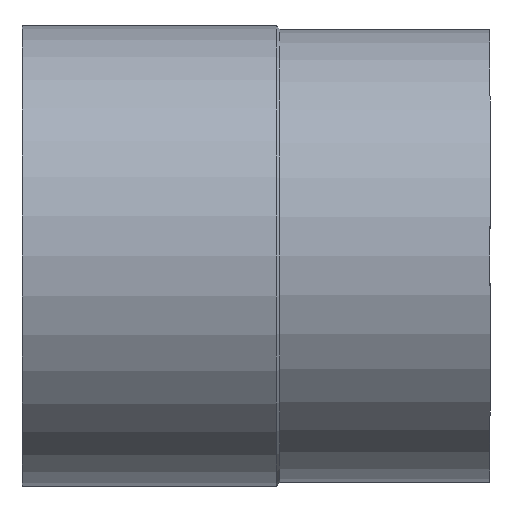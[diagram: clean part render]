
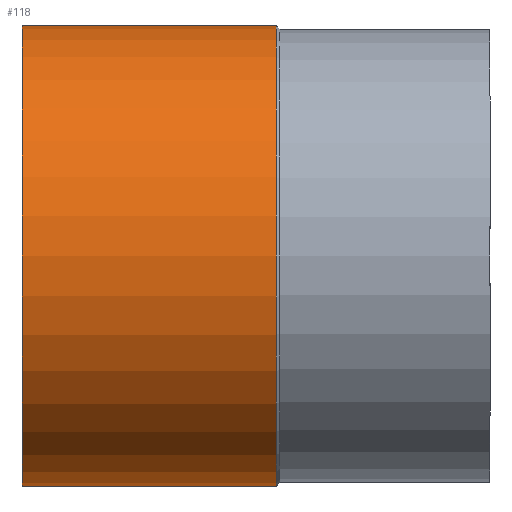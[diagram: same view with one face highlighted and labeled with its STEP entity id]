
A CAD part, front view. The second image highlights one B-rep face of the part: STEP entity #118.
In plain terms, the highlighted cylindrical face has radius 62.5 mm (diameter 125 mm), a full revolution.
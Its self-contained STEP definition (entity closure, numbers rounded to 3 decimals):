
#18=CYLINDRICAL_SURFACE('',#134,62.5);
#25=FACE_BOUND('',#49,.T.);
#35=FACE_OUTER_BOUND('',#48,.T.);
#48=EDGE_LOOP('',(#98));
#49=EDGE_LOOP('',(#99));
#65=CIRCLE('',#133,62.5);
#66=CIRCLE('',#135,62.5);
#75=VERTEX_POINT('',#199);
#76=VERTEX_POINT('',#202);
#85=EDGE_CURVE('',#75,#75,#65,.T.);
#86=EDGE_CURVE('',#76,#76,#66,.T.);
#98=ORIENTED_EDGE('',*,*,#85,.T.);
#99=ORIENTED_EDGE('',*,*,#86,.F.);
#118=ADVANCED_FACE('',(#35,#25),#18,.T.);
#133=AXIS2_PLACEMENT_3D('',#200,#161,#162);
#134=AXIS2_PLACEMENT_3D('',#201,#163,#164);
#135=AXIS2_PLACEMENT_3D('',#203,#165,#166);
#161=DIRECTION('center_axis',(-1.,0.,0.));
#162=DIRECTION('ref_axis',(0.,0.,1.));
#163=DIRECTION('center_axis',(-1.,0.,0.));
#164=DIRECTION('ref_axis',(0.,-1.,0.));
#165=DIRECTION('center_axis',(-1.,0.,0.));
#166=DIRECTION('ref_axis',(0.,0.,1.));
#199=CARTESIAN_POINT('',(5.5,-62.5,0.));
#200=CARTESIAN_POINT('Origin',(5.5,0.,0.));
#201=CARTESIAN_POINT('Origin',(-29.,0.,0.));
#202=CARTESIAN_POINT('',(-63.5,-62.5,0.));
#203=CARTESIAN_POINT('Origin',(-63.5,0.,0.));
